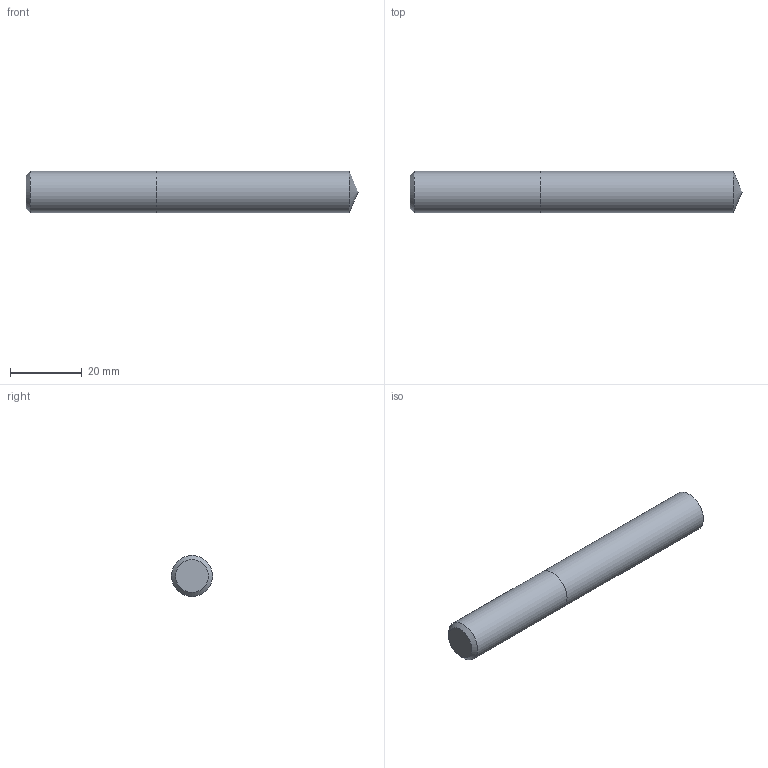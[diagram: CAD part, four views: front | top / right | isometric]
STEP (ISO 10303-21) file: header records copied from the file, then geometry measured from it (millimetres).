
FILE_DESCRIPTION (( 'STEP AP214' ), '1' );
FILE_NAME ('03-2428.STEP', '2022-06-03T07:38:48', ( 'USER' ), ( '' ), 'SwSTEP 2.0', 'SolidWorks 2018', '' );
FILE_SCHEMA (( 'AUTOMOTIVE_DESIGN' ));
Length unit declared in the file: inch
Products named in the file (1): 03-2428
Bounding box: 92.87 x 11.51 x 11.51 mm (x, y, z)
Volume: 9474.5 mm3; surface area: 3670.4 mm2
Topology: 2 solids, 2 shells, 7 faces, 11 edges, 7 vertices
Faces by surface type: plane 3, cylinder 2, cone 2
Full cylindrical faces by diameter (mm): 11.509 x2
Entity records: 214 total; most frequent: DIRECTION 26, CARTESIAN_POINT 18, AXIS2_PLACEMENT_3D 13, EDGE_LOOP 10, ORIENTED_EDGE 10, FACE_OUTER_BOUND 9, ADVANCED_FACE 7, LENGTH_MEASURE_WITH_UNIT 7
